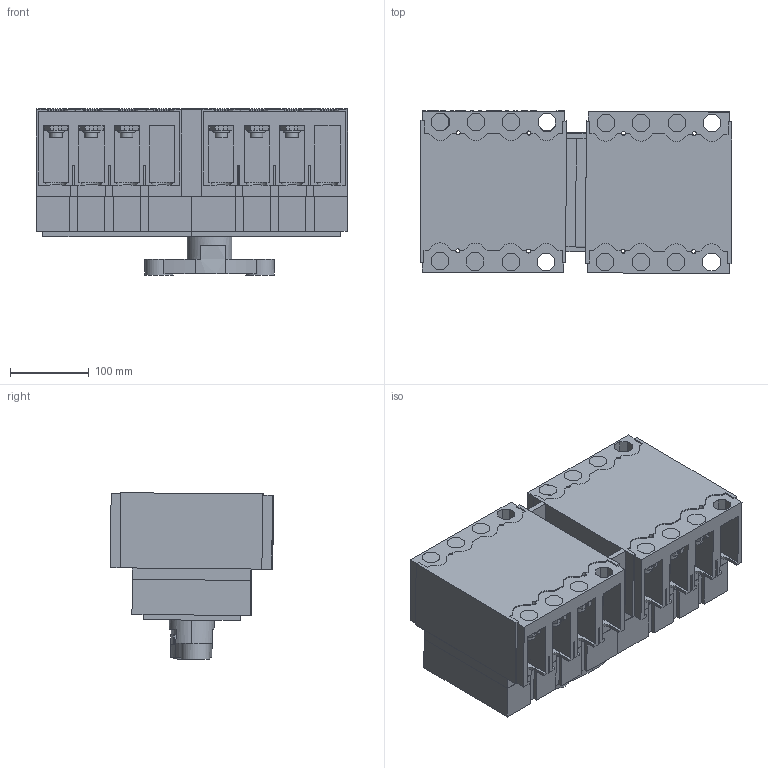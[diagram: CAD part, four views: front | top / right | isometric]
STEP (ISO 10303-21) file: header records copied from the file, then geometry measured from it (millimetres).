
FILE_DESCRIPTION((''),'2;1');
FILE_NAME('31148_3D-SIMPLIFIED_ASM','2017-09-08T',('dlavaud'),(''),'PRO/ENGINEER BY PARAMETRIC TECHNOLOGY CORPORATION, 2014090','PRO/ENGINEER BY PARAMETRIC TECHNOLOGY CORPORATION, 2014090','');
FILE_SCHEMA(('CONFIG_CONTROL_DESIGN'));
Length unit declared in the file: millimetre
Products named in the file (27): PIECE_01_1_1; PIECE_02_1_AF0_1; PIECE_10_1_1; PIECE_09_1_1; BLOCK01_ASM_1_AF0_ASM_1_ASM; PIECE_02_1_AF1_1; BLOCK01_ASM_1_AF1_ASM_1_ASM; PIECE_05_1_AF0_1; PIECE_06_1_AF0_1; PIECE_07_1_AF0_1; PIECE_07_1_AF1_1; SB109302_3D-SIMPLIFIED_ASM__AF0_ASM; SB109302_3D-SIMPLIFIED_AF0_ASM__ASM; MANETTE_1_1_1; PRT0006_1; PRT0003_1; PRT0003_1_1; VIS_ASM_1_ASM_1_ASM; VIS_1_1_ASM_1_ASM; PRT0005_1; ASM0002_ASM_1_ASM; ASM0001_ASM_1_ASM; VIS_ASM_1_ASM; MANETTE_ASM_1_ASM; SIMPLIFIED_ASM_1_ASM; 31148_3D-SIMPLIFIED_ASM_1_ASM; 31148_3D-SIMPLIFIED_ASM
Assembly tree (56 placements, depth 8):
  31148_3D-SIMPLIFIED_ASM
    31148_3D-SIMPLIFIED_ASM_1_ASM
      SIMPLIFIED_ASM_1_ASM
        SB109302_3D-SIMPLIFIED_AF0_ASM__ASM
          SB109302_3D-SIMPLIFIED_ASM__AF0_ASM
            BLOCK01_ASM_1_AF0_ASM_1_ASM
              PIECE_01_1_1
              PIECE_02_1_AF0_1
              PIECE_10_1_1  x6
              PIECE_09_1_1  x6
            BLOCK01_ASM_1_AF1_ASM_1_ASM
              PIECE_01_1_1
              PIECE_02_1_AF1_1
              PIECE_10_1_1  x6
              PIECE_09_1_1  x6
            PIECE_05_1_AF0_1
            PIECE_06_1_AF0_1
            PIECE_07_1_AF0_1
            PIECE_07_1_AF1_1
        MANETTE_ASM_1_ASM
          MANETTE_1_1_1
          PRT0006_1
          VIS_ASM_1_ASM
            PRT0003_1  x3
            VIS_1_1_ASM_1_ASM  x2
              VIS_ASM_1_ASM_1_ASM
                PRT0003_1_1  x3
            ASM0001_ASM_1_ASM
              ASM0002_ASM_1_ASM
                PRT0005_1  x3
Bounding box: 395.51 x 207.28 x 211.7 mm (x, y, z)
Volume: 10318161.6 mm3; surface area: 874746.6 mm2
Topology: 46 solids, 46 shells, 1191 faces, 3229 edges, 2174 vertices
Faces by surface type: plane 982, cylinder 209
Entity records: 19082 total; most frequent: CARTESIAN_POINT 3389, DIRECTION 3213, ORIENTED_EDGE 3122, EDGE_CURVE 1561, VECTOR 1235, LINE 1235, VERTEX_POINT 1052, AXIS2_PLACEMENT_3D 989
